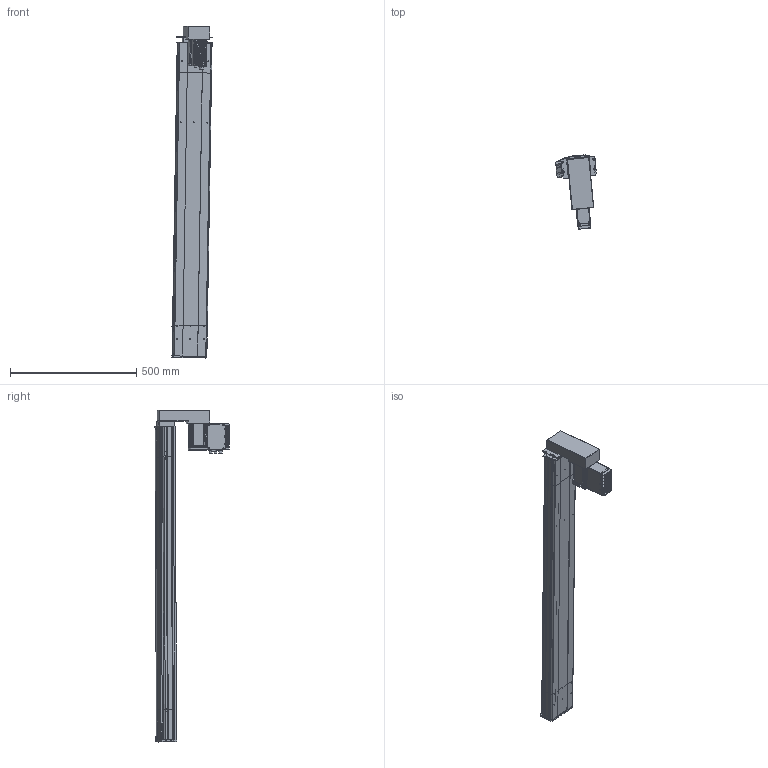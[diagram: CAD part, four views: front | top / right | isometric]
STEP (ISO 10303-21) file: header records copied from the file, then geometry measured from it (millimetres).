
FILE_DESCRIPTION (( 'STEP AP203' ), '1' );
FILE_NAME ('D14 TSH M4 BM L10 S1000.STEP', '2012-10-11T12:10:15', ( '' ), ( '' ), 'SwSTEP 2.0', 'SolidWorks 2010', '' );
FILE_SCHEMA (( 'CONFIG_CONTROL_DESIGN' ));
Products named in the file (22): Moteur_2; T犨e contre le moteur_2; Tôle latérale_2; Couvercle_2; Vis TF 3 torkx_2; couvercle D14 head_Default_2; plaque de  bout tail D14_Default_2; D14 TSH M4 BM L10 S1000; corp head D14_Default_2; plaque de  bout head D14 MD_Default_2; corpl tail D14_Default_2; Sub D 9cts_2; T犨e fond_2; Connecteur rond D10 3cts_2; Tôle Arrière_2; Connecteur rond D12 4cts_2; Moteur 70BLDC90A_2; Colonnette_2; Radiateur_2; Pièce1002; Pièce1000; plaque de bout head D14 BM
Assembly tree (49 placements, depth 3):
  D14 TSH M4 BM L10 S1000
    couvercle D14 head_Default_2  x2
    corpl tail D14_Default_2
    Moteur_2
      Vis TF 3 torkx_2  x26
      Connecteur rond D12 4cts_2
      Moteur 70BLDC90A_2
      Connecteur rond D10 3cts_2  x2
      Tôle Arrière_2
      Tôle latérale_2  x2
      Radiateur_2
      T犨e contre le moteur_2
      Couvercle_2
      Colonnette_2
      Sub D 9cts_2
      T犨e fond_2
    corp head D14_Default_2
    plaque de  bout tail D14_Default_2
    plaque de  bout head D14 MD_Default_2
    Pièce1002
    Pièce1000
    plaque de bout head D14 BM
Bounding box: 161.1 x 294.6 x 1313.97 mm (x, y, z)
Volume: 4882994.8 mm3; surface area: 1487480.1 mm2
Topology: 70 solids, 70 shells, 2415 faces, 6303 edges, 4155 vertices
Faces by surface type: plane 1300, cylinder 851, cone 134, bspline 130
Entity records: 64759 total; most frequent: CARTESIAN_POINT 20869, ORIENTED_EDGE 8564, DIRECTION 8203, EDGE_CURVE 4282, LINE 2853, VECTOR 2853, VERTEX_POINT 2829, AXIS2_PLACEMENT_3D 2675
